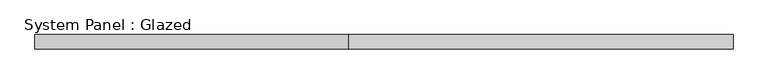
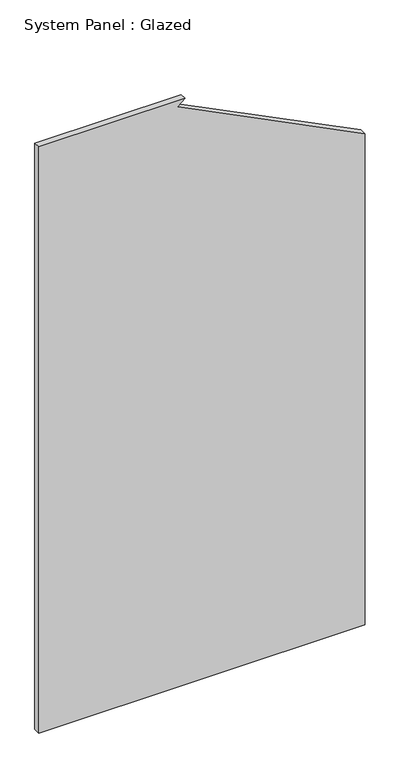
"""IFC4 building model written with IfcOpenShell, lengths in millimetres: plate geometry, System Panel : Glazed."""

from ifc_helpers import new_model, si_unit, frame, origin, place, context, project, spatial, polyline, outline, extrude, source, transform, mapped, element, save


def system_panel_glazed_25fb0b6d(model_context):
    return source(origin(), model_context, "Body", "SweptSolid", [
        extrude(outline(polyline([(0.0, -625.475), (0.0, 625.475), (1990.6710429, 625.475), (2349.8538734, -92.890661), (2374.9, -64.4925977), (2374.9, -625.475), (0.0, -625.475)])), frame((0.0, 19.05, 0.0), z_axis=(0.0, 1.0, 0.0), x_axis=(0.0, 0.0, 1.0)), (0.0, 0.0, 1.0), 25.4),
    ])


if __name__ == "__main__":
    model = new_model("IFC4")
    model_context = context("Model", 3, world=origin())
    ifc_project = project(units=[si_unit("LENGTHUNIT", "METRE", prefix="MILLI")], contexts=[model_context])
    site = spatial("IfcSite", under=ifc_project)
    building = spatial("IfcBuilding", under=site)
    placement = place(None, origin())
    system_panel_glazed_shape = system_panel_glazed_25fb0b6d(model_context)
    element("IfcPlate", 1, ObjectType="System Panel : Glazed", at=placement, inside=building, context=model_context, shape_type="MappedRepresentation", body=[
        mapped(system_panel_glazed_shape, transform((0.0, 0.0, 0.0), x_axis=(1.0, 0.0, 0.0), y_axis=(0.0, 1.0, 0.0), z_axis=(0.0, 0.0, 1.0))),
    ])
    save(model, "model.ifc")
